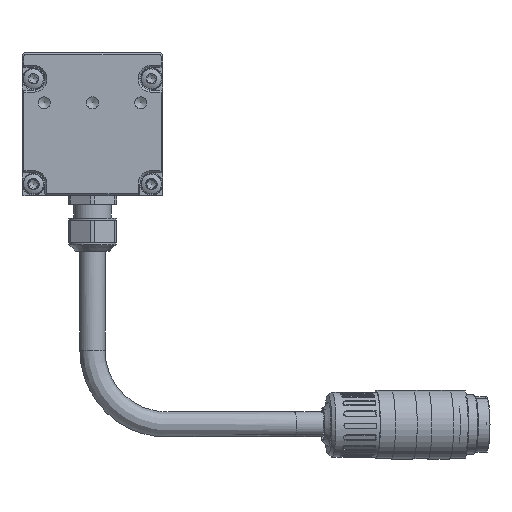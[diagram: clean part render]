
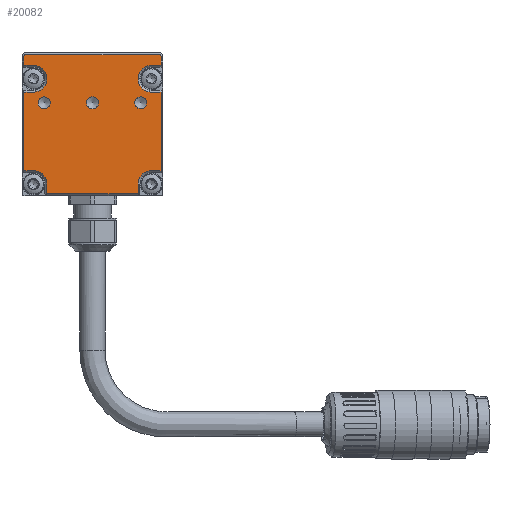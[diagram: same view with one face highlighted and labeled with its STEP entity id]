
A CAD part, left-side view. The second image highlights one B-rep face of the part: STEP entity #20082.
In plain terms, the highlighted planar face has unit normal (-1, 0, 0).
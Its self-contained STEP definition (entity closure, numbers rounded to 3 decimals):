
#880=LINE('',#27913,#1882);
#882=LINE('',#27917,#1884);
#886=LINE('',#27925,#1888);
#889=LINE('',#27931,#1891);
#891=LINE('',#27936,#1893);
#895=LINE('',#27944,#1897);
#897=LINE('',#27948,#1899);
#901=LINE('',#27957,#1903);
#903=LINE('',#27962,#1905);
#906=LINE('',#27970,#1908);
#909=LINE('',#27976,#1911);
#912=LINE('',#27984,#1914);
#916=LINE('',#27992,#1918);
#919=LINE('',#27999,#1921);
#1882=VECTOR('',#23214,1000.);
#1884=VECTOR('',#23218,1000.);
#1888=VECTOR('',#23224,1000.);
#1891=VECTOR('',#23229,1000.);
#1893=VECTOR('',#23235,1000.);
#1897=VECTOR('',#23241,1000.);
#1899=VECTOR('',#23247,1000.);
#1903=VECTOR('',#23257,1000.);
#1905=VECTOR('',#23265,1000.);
#1908=VECTOR('',#23274,1000.);
#1911=VECTOR('',#23283,1000.);
#1914=VECTOR('',#23292,1000.);
#1918=VECTOR('',#23302,1000.);
#1921=VECTOR('',#23311,1000.);
#2682=PLANE('',#21147);
#3923=ORIENTED_EDGE('',*,*,#7674,.T.);
#3924=ORIENTED_EDGE('',*,*,#7675,.T.);
#3925=ORIENTED_EDGE('',*,*,#7676,.T.);
#3926=ORIENTED_EDGE('',*,*,#7648,.T.);
#3927=ORIENTED_EDGE('',*,*,#7645,.T.);
#3928=ORIENTED_EDGE('',*,*,#7639,.T.);
#3929=ORIENTED_EDGE('',*,*,#7656,.T.);
#3930=ORIENTED_EDGE('',*,*,#7654,.T.);
#3931=ORIENTED_EDGE('',*,*,#7652,.T.);
#3932=ORIENTED_EDGE('',*,*,#7630,.T.);
#3933=ORIENTED_EDGE('',*,*,#7663,.T.);
#3934=ORIENTED_EDGE('',*,*,#7661,.T.);
#3935=ORIENTED_EDGE('',*,*,#7659,.T.);
#3936=ORIENTED_EDGE('',*,*,#7628,.T.);
#3937=ORIENTED_EDGE('',*,*,#7673,.F.);
#3938=ORIENTED_EDGE('',*,*,#7643,.T.);
#3939=ORIENTED_EDGE('',*,*,#7672,.F.);
#3940=ORIENTED_EDGE('',*,*,#7637,.T.);
#3941=ORIENTED_EDGE('',*,*,#7671,.T.);
#3942=ORIENTED_EDGE('',*,*,#7669,.T.);
#3943=ORIENTED_EDGE('',*,*,#7667,.T.);
#3944=ORIENTED_EDGE('',*,*,#7634,.T.);
#3945=ORIENTED_EDGE('',*,*,#7650,.T.);
#7628=EDGE_CURVE('',#9566,#9567,#880,.T.);
#7630=EDGE_CURVE('',#9569,#9568,#882,.T.);
#7634=EDGE_CURVE('',#9570,#9571,#886,.T.);
#7637=EDGE_CURVE('',#9572,#9573,#889,.T.);
#7639=EDGE_CURVE('',#9575,#9574,#891,.T.);
#7643=EDGE_CURVE('',#9576,#9577,#895,.T.);
#7645=EDGE_CURVE('',#9578,#9575,#897,.T.);
#7648=EDGE_CURVE('',#9579,#9578,#10697,.T.);
#7650=EDGE_CURVE('',#9571,#9579,#901,.T.);
#7652=EDGE_CURVE('',#9580,#9569,#903,.T.);
#7654=EDGE_CURVE('',#9581,#9580,#10698,.T.);
#7656=EDGE_CURVE('',#9574,#9581,#906,.T.);
#7659=EDGE_CURVE('',#9582,#9566,#909,.T.);
#7661=EDGE_CURVE('',#9583,#9582,#10699,.T.);
#7663=EDGE_CURVE('',#9568,#9583,#912,.T.);
#7667=EDGE_CURVE('',#9584,#9570,#916,.T.);
#7669=EDGE_CURVE('',#9585,#9584,#10700,.T.);
#7671=EDGE_CURVE('',#9573,#9585,#919,.T.);
#7672=EDGE_CURVE('',#9572,#9577,#10701,.T.);
#7673=EDGE_CURVE('',#9576,#9567,#10702,.T.);
#7674=EDGE_CURVE('',#9586,#9586,#10703,.T.);
#7675=EDGE_CURVE('',#9587,#9587,#10704,.T.);
#7676=EDGE_CURVE('',#9588,#9588,#10705,.T.);
#9566=VERTEX_POINT('',#27910);
#9567=VERTEX_POINT('',#27912);
#9568=VERTEX_POINT('',#27916);
#9569=VERTEX_POINT('',#27918);
#9570=VERTEX_POINT('',#27922);
#9571=VERTEX_POINT('',#27924);
#9572=VERTEX_POINT('',#27928);
#9573=VERTEX_POINT('',#27930);
#9574=VERTEX_POINT('',#27935);
#9575=VERTEX_POINT('',#27937);
#9576=VERTEX_POINT('',#27941);
#9577=VERTEX_POINT('',#27943);
#9578=VERTEX_POINT('',#27949);
#9579=VERTEX_POINT('',#27953);
#9580=VERTEX_POINT('',#27963);
#9581=VERTEX_POINT('',#27967);
#9582=VERTEX_POINT('',#27977);
#9583=VERTEX_POINT('',#27981);
#9584=VERTEX_POINT('',#27991);
#9585=VERTEX_POINT('',#27995);
#9586=VERTEX_POINT('',#28007);
#9587=VERTEX_POINT('',#28009);
#9588=VERTEX_POINT('',#28011);
#10697=CIRCLE('',#21122,3.6);
#10698=CIRCLE('',#21128,3.6);
#10699=CIRCLE('',#21134,3.6);
#10700=CIRCLE('',#21140,3.6);
#10701=CIRCLE('',#21144,0.5);
#10702=CIRCLE('',#21146,0.5);
#10703=CIRCLE('',#21148,1.621);
#10704=CIRCLE('',#21149,1.621);
#10705=CIRCLE('',#21150,1.621);
#11388=EDGE_LOOP('',(#3923));
#11389=EDGE_LOOP('',(#3924));
#11390=EDGE_LOOP('',(#3925));
#11391=EDGE_LOOP('',(#3926,#3927,#3928,#3929,#3930,#3931,#3932,#3933,#3934,
#3935,#3936,#3937,#3938,#3939,#3940,#3941,#3942,#3943,#3944,#3945));
#12478=FACE_BOUND('',#11388,.T.);
#12479=FACE_BOUND('',#11389,.T.);
#12480=FACE_BOUND('',#11390,.T.);
#12481=FACE_BOUND('',#11391,.T.);
#20082=ADVANCED_FACE('',(#12478,#12479,#12480,#12481),#2682,.F.);
#21122=AXIS2_PLACEMENT_3D('',#27954,#23252,#23253);
#21128=AXIS2_PLACEMENT_3D('',#27966,#23269,#23270);
#21134=AXIS2_PLACEMENT_3D('',#27980,#23287,#23288);
#21140=AXIS2_PLACEMENT_3D('',#27996,#23306,#23307);
#21144=AXIS2_PLACEMENT_3D('',#28002,#23316,#23317);
#21146=AXIS2_PLACEMENT_3D('',#28004,#23320,#23321);
#21147=AXIS2_PLACEMENT_3D('',#28005,#23322,#23323);
#21148=AXIS2_PLACEMENT_3D('',#28006,#23324,#23325);
#21149=AXIS2_PLACEMENT_3D('',#28008,#23326,#23327);
#21150=AXIS2_PLACEMENT_3D('',#28010,#23328,#23329);
#23214=DIRECTION('',(0.,0.,1.));
#23218=DIRECTION('',(0.,0.,1.));
#23224=DIRECTION('',(0.,0.,-1.));
#23229=DIRECTION('',(0.,0.,-1.));
#23235=DIRECTION('',(0.,-1.,0.));
#23241=DIRECTION('',(0.,1.,0.));
#23247=DIRECTION('',(0.,0.,-1.));
#23252=DIRECTION('',(1.,0.,0.));
#23253=DIRECTION('',(0.,1.,0.));
#23257=DIRECTION('',(0.,-1.,0.));
#23265=DIRECTION('',(0.,-1.,0.));
#23269=DIRECTION('',(1.,0.,0.));
#23270=DIRECTION('',(0.,1.,0.));
#23274=DIRECTION('',(0.,0.,1.));
#23283=DIRECTION('',(0.,-1.,0.));
#23287=DIRECTION('',(1.,0.,0.));
#23288=DIRECTION('',(0.,1.,0.));
#23292=DIRECTION('',(0.,1.,0.));
#23302=DIRECTION('',(0.,1.,0.));
#23306=DIRECTION('',(1.,0.,0.));
#23307=DIRECTION('',(0.,1.,0.));
#23311=DIRECTION('',(0.,-1.,0.));
#23316=DIRECTION('',(1.,0.,0.));
#23317=DIRECTION('',(0.,1.,0.));
#23320=DIRECTION('',(1.,0.,0.));
#23321=DIRECTION('',(0.,1.,0.));
#23322=DIRECTION('',(1.,0.,0.));
#23323=DIRECTION('',(0.,1.,0.));
#23324=DIRECTION('',(1.,0.,0.));
#23325=DIRECTION('',(0.,-1.,0.));
#23326=DIRECTION('',(1.,0.,0.));
#23327=DIRECTION('',(0.,-1.,0.));
#23328=DIRECTION('',(1.,0.,0.));
#23329=DIRECTION('',(0.,-1.,0.));
#27910=CARTESIAN_POINT('',(-614.998,-18.5,35.119));
#27912=CARTESIAN_POINT('',(-614.998,-18.5,37.519));
#27913=CARTESIAN_POINT('',(-614.998,-18.5,0.019));
#27916=CARTESIAN_POINT('',(-614.998,-18.5,27.919));
#27917=CARTESIAN_POINT('',(-614.998,-18.5,0.019));
#27918=CARTESIAN_POINT('',(-614.998,-18.5,6.719));
#27922=CARTESIAN_POINT('',(-614.998,18.5,27.919));
#27924=CARTESIAN_POINT('',(-614.998,18.5,6.719));
#27925=CARTESIAN_POINT('',(-614.998,18.5,0.019));
#27928=CARTESIAN_POINT('',(-614.998,18.5,37.519));
#27930=CARTESIAN_POINT('',(-614.998,18.5,35.119));
#27931=CARTESIAN_POINT('',(-614.998,18.5,0.019));
#27935=CARTESIAN_POINT('',(-614.998,-12.3,0.519));
#27936=CARTESIAN_POINT('',(-614.998,-12.3,0.519));
#27937=CARTESIAN_POINT('',(-614.998,12.3,0.519));
#27941=CARTESIAN_POINT('',(-614.998,-18.,38.019));
#27943=CARTESIAN_POINT('',(-614.998,18.,38.019));
#27944=CARTESIAN_POINT('',(-614.998,-19.,38.019));
#27948=CARTESIAN_POINT('',(-614.998,12.3,0.019));
#27949=CARTESIAN_POINT('',(-614.998,12.3,3.119));
#27953=CARTESIAN_POINT('',(-614.998,15.9,6.719));
#27954=CARTESIAN_POINT('',(-614.998,15.9,3.119));
#27957=CARTESIAN_POINT('',(-614.998,-19.,6.719));
#27962=CARTESIAN_POINT('',(-614.998,-19.,6.719));
#27963=CARTESIAN_POINT('',(-614.998,-15.9,6.719));
#27966=CARTESIAN_POINT('',(-614.998,-15.9,3.119));
#27967=CARTESIAN_POINT('',(-614.998,-12.3,3.119));
#27970=CARTESIAN_POINT('',(-614.998,-12.3,0.019));
#27976=CARTESIAN_POINT('',(-614.998,-19.,35.119));
#27977=CARTESIAN_POINT('',(-614.998,-15.9,35.119));
#27980=CARTESIAN_POINT('',(-614.998,-15.9,31.519));
#27981=CARTESIAN_POINT('',(-614.998,-15.9,27.919));
#27984=CARTESIAN_POINT('',(-614.998,-19.,27.919));
#27991=CARTESIAN_POINT('',(-614.998,15.9,27.919));
#27992=CARTESIAN_POINT('',(-614.998,-19.,27.919));
#27995=CARTESIAN_POINT('',(-614.998,15.9,35.119));
#27996=CARTESIAN_POINT('',(-614.998,15.9,31.519));
#27999=CARTESIAN_POINT('',(-614.998,-19.,35.119));
#28002=CARTESIAN_POINT('',(-614.998,18.,37.519));
#28004=CARTESIAN_POINT('',(-614.998,-18.,37.519));
#28005=CARTESIAN_POINT('',(-614.998,-19.,0.019));
#28006=CARTESIAN_POINT('',(-614.998,13.,25.019));
#28007=CARTESIAN_POINT('',(-614.998,11.379,25.019));
#28008=CARTESIAN_POINT('',(-614.998,0.,25.019));
#28009=CARTESIAN_POINT('',(-614.998,-1.621,25.019));
#28010=CARTESIAN_POINT('',(-614.998,-13.,25.019));
#28011=CARTESIAN_POINT('',(-614.998,-14.621,25.019));
